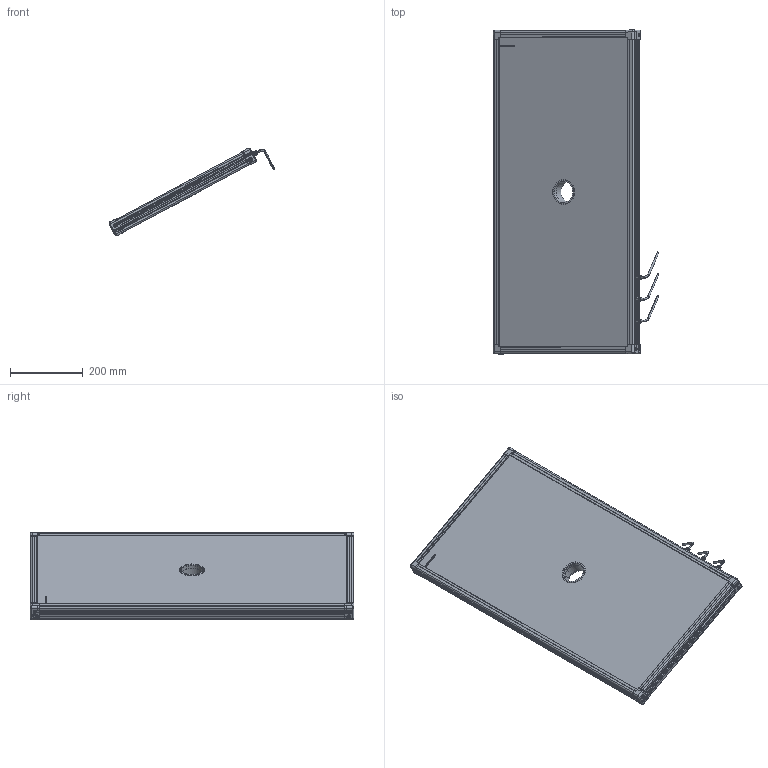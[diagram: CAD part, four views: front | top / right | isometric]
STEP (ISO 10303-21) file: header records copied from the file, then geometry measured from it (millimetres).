
FILE_DESCRIPTION (( 'STEP AP214' ), '1' );
FILE_NAME ('EFFI-BL-400-850-XXX-3M12.STEP', '2021-06-23T07:27:55', ( '' ), ( '' ), 'SwSTEP 2.0', 'SolidWorks 2021', '' );
FILE_SCHEMA (( 'AUTOMOTIVE_DESIGN' ));
Length unit declared in the file: millimetre
Products named in the file (13): cordon_Avec cable; 000629; EFFI-BL-400-850-XXX-3M12; petite joue + vis; Pièce13^EFFI-BL-XXX-YYY-ZZZ (3 connecteurs) Ø58.5; petite joue; profile Y_PERCE; 000590; profile X_PERCE; Assemblage Ø58.5; 001037; 001038
Assembly tree (21 placements, depth 3):
  EFFI-BL-400-850-XXX-3M12
    profile X_PERCE  x2
    profile Y_PERCE
    profile Y_PERCE
    Pièce13^EFFI-BL-XXX-YYY-ZZZ (3 connecteurs) Ø58.5
    petite joue + vis  x4
      petite joue
      000629
    Assemblage Ø58.5
      001037
      001038
      000590  x3
    cordon_Avec cable  x3
Bounding box: 454.52 x 889 x 241.05 mm (x, y, z)
Volume: 13446578.4 mm3; surface area: 1202885.2 mm2
Topology: 22 solids, 40 shells, 4123 faces, 10940 edges, 7177 vertices
Faces by surface type: plane 2536, cylinder 759, bspline 609, cone 156, torus 55, sphere 8
Entity records: 57210 total; most frequent: CARTESIAN_POINT 22824, ORIENTED_EDGE 7166, DIRECTION 5912, EDGE_CURVE 3587, LINE 2498, VECTOR 2498, VERTEX_POINT 2358, AXIS2_PLACEMENT_3D 1707
